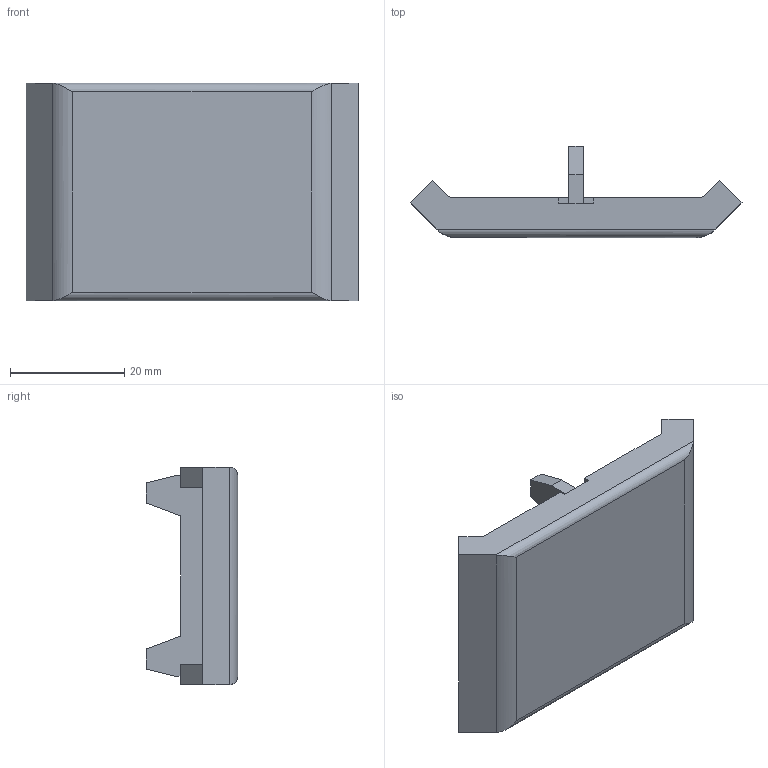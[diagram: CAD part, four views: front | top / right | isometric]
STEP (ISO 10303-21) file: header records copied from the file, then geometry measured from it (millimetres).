
FILE_DESCRIPTION (( 'STEP AP214' ), '1' );
FILE_NAME ('BE FBFA 38B.step', '2017-04-05T07:53:21', ( '' ), ( '' ), 'SwSTEP 2.0', 'SolidWorks 2015', '' );
FILE_SCHEMA (( 'AUTOMOTIVE_DESIGN' ));
Length unit declared in the file: millimetre
Products named in the file (1): BE FBFA 38B
Bounding box: 58 x 16 x 38 mm (x, y, z)
Volume: 8649.3 mm3; surface area: 6473.4 mm2
Topology: 1 solids, 1 shells, 52 faces, 146 edges, 96 vertices
Faces by surface type: plane 42, cylinder 10
Entity records: 1720 total; most frequent: CARTESIAN_POINT 351, ORIENTED_EDGE 292, DIRECTION 256, EDGE_CURVE 146, VECTOR 126, LINE 126, VERTEX_POINT 96, AXIS2_PLACEMENT_3D 65
